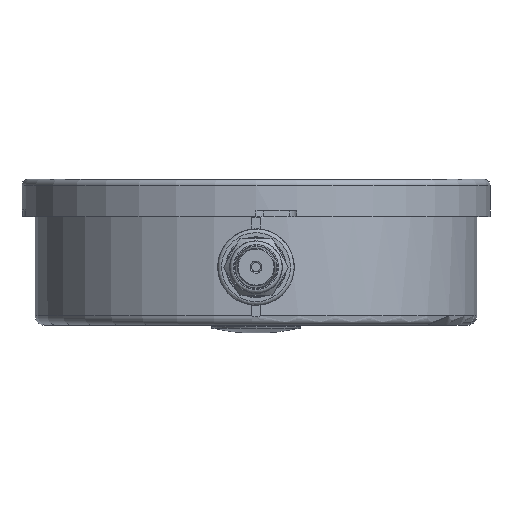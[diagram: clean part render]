
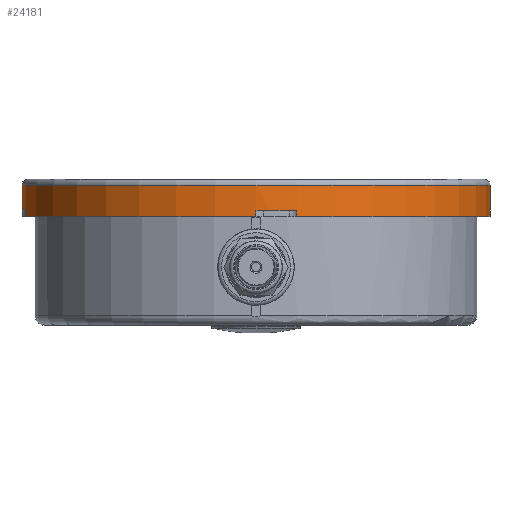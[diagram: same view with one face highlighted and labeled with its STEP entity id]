
A CAD part, front view. The second image highlights one B-rep face of the part: STEP entity #24181.
In plain terms, the highlighted cylindrical face has radius 79.375 mm (diameter 158.75 mm), a full revolution.
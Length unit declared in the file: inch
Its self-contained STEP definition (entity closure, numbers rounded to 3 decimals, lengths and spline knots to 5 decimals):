
#1772=LINE($,#34882,#4398);
#1774=LINE($,#34894,#4400);
#1776=LINE($,#34903,#4402);
#1778=LINE($,#34915,#4404);
#1780=LINE($,#34924,#4406);
#1782=LINE($,#34938,#4408);
#1784=LINE($,#34947,#4410);
#1786=LINE($,#34961,#4412);
#4398=VECTOR($,#27845,0.07954);
#4400=VECTOR($,#27859,0.07954);
#4402=VECTOR($,#27867,0.08981);
#4404=VECTOR($,#27881,0.08981);
#4406=VECTOR($,#27889,0.07954);
#4408=VECTOR($,#27907,0.07954);
#4410=VECTOR($,#27915,0.08981);
#4412=VECTOR($,#27933,0.08981);
#6372=FACE_BOUND($,#9297,.T.);
#6454=CYLINDRICAL_SURFACE($,#25637,3.125);
#7794=FACE_OUTER_BOUND($,#9296,.T.);
#9296=EDGE_LOOP($,(#17806,#17807,#17808,#17809,#17810,#17811,#17812,#17813,
#17814,#17815,#17816,#17817,#17818,#17819,#17820,#17821));
#9297=EDGE_LOOP($,(#17822));
#10628=CIRCLE($,#25619,3.125);
#10635=CIRCLE($,#25630,3.125);
#10638=CIRCLE($,#25636,3.125);
#10639=CIRCLE($,#25638,3.125);
#10640=CIRCLE($,#25639,3.125);
#10641=CIRCLE($,#25640,3.125);
#10642=CIRCLE($,#25641,3.125);
#10643=CIRCLE($,#25642,3.125);
#10644=CIRCLE($,#25643,3.125);
#11779=VERTEX_POINT($,#34876);
#11781=VERTEX_POINT($,#34880);
#11784=VERTEX_POINT($,#34890);
#11785=VERTEX_POINT($,#34892);
#11787=VERTEX_POINT($,#34897);
#11789=VERTEX_POINT($,#34901);
#11792=VERTEX_POINT($,#34911);
#11793=VERTEX_POINT($,#34913);
#11795=VERTEX_POINT($,#34918);
#11797=VERTEX_POINT($,#34922);
#11799=VERTEX_POINT($,#34928);
#11801=VERTEX_POINT($,#34936);
#11803=VERTEX_POINT($,#34941);
#11805=VERTEX_POINT($,#34945);
#11807=VERTEX_POINT($,#34951);
#11809=VERTEX_POINT($,#34959);
#11810=VERTEX_POINT($,#34970);
#14127=EDGE_CURVE($,#11779,#11781,#1772,.T.);
#14133=EDGE_CURVE($,#11784,#11785,#1774,.T.);
#14137=EDGE_CURVE($,#11787,#11789,#1776,.T.);
#14143=EDGE_CURVE($,#11792,#11793,#1778,.T.);
#14147=EDGE_CURVE($,#11795,#11797,#1780,.T.);
#14150=EDGE_CURVE($,#11797,#11799,#10628,.T.);
#14154=EDGE_CURVE($,#11799,#11801,#1782,.T.);
#14158=EDGE_CURVE($,#11803,#11805,#1784,.T.);
#14161=EDGE_CURVE($,#11805,#11807,#10635,.T.);
#14165=EDGE_CURVE($,#11807,#11809,#1786,.T.);
#14166=EDGE_CURVE($,#11793,#11787,#10638,.T.);
#14167=EDGE_CURVE($,#11784,#11789,#10639,.T.);
#14168=EDGE_CURVE($,#11785,#11779,#10640,.T.);
#14169=EDGE_CURVE($,#11803,#11781,#10641,.T.);
#14170=EDGE_CURVE($,#11795,#11809,#10642,.T.);
#14171=EDGE_CURVE($,#11792,#11801,#10643,.T.);
#14172=EDGE_CURVE($,#11810,#11810,#10644,.T.);
#17806=ORIENTED_EDGE($,*,*,#14143,.T.);
#17807=ORIENTED_EDGE($,*,*,#14166,.T.);
#17808=ORIENTED_EDGE($,*,*,#14137,.T.);
#17809=ORIENTED_EDGE($,*,*,#14167,.F.);
#17810=ORIENTED_EDGE($,*,*,#14133,.T.);
#17811=ORIENTED_EDGE($,*,*,#14168,.T.);
#17812=ORIENTED_EDGE($,*,*,#14127,.T.);
#17813=ORIENTED_EDGE($,*,*,#14169,.F.);
#17814=ORIENTED_EDGE($,*,*,#14158,.T.);
#17815=ORIENTED_EDGE($,*,*,#14161,.T.);
#17816=ORIENTED_EDGE($,*,*,#14165,.T.);
#17817=ORIENTED_EDGE($,*,*,#14170,.F.);
#17818=ORIENTED_EDGE($,*,*,#14147,.T.);
#17819=ORIENTED_EDGE($,*,*,#14150,.T.);
#17820=ORIENTED_EDGE($,*,*,#14154,.T.);
#17821=ORIENTED_EDGE($,*,*,#14171,.F.);
#17822=ORIENTED_EDGE($,*,*,#14172,.F.);
#24181=ADVANCED_FACE($,(#7794,#6372),#6454,.T.);
#25619=AXIS2_PLACEMENT_3D($,#34930,#27896,#27897);
#25630=AXIS2_PLACEMENT_3D($,#34953,#27922,#27923);
#25636=AXIS2_PLACEMENT_3D($,#34963,#27936,#27937);
#25637=AXIS2_PLACEMENT_3D($,#34964,#27938,#27939);
#25638=AXIS2_PLACEMENT_3D($,#34965,#27940,#27941);
#25639=AXIS2_PLACEMENT_3D($,#34966,#27942,#27943);
#25640=AXIS2_PLACEMENT_3D($,#34967,#27944,#27945);
#25641=AXIS2_PLACEMENT_3D($,#34968,#27946,#27947);
#25642=AXIS2_PLACEMENT_3D($,#34969,#27948,#27949);
#25643=AXIS2_PLACEMENT_3D($,#34971,#27950,#27951);
#27845=DIRECTION($,(0.,0.,-1.));
#27859=DIRECTION($,(0.,0.,1.));
#27867=DIRECTION($,(0.,0.,-1.));
#27881=DIRECTION($,(0.,0.,1.));
#27889=DIRECTION($,(0.,0.,1.));
#27896=DIRECTION('center_axis',(0.,0.,
1.));
#27897=DIRECTION('ref_axis',(-1.,0.,0.));
#27907=DIRECTION($,(0.,0.,-1.));
#27915=DIRECTION($,(0.,0.,1.));
#27922=DIRECTION('center_axis',(0.,0.,
1.));
#27923=DIRECTION('ref_axis',(-1.,0.,0.));
#27933=DIRECTION($,(0.,0.,-1.));
#27936=DIRECTION('center_axis',(0.,0.,
1.));
#27937=DIRECTION('ref_axis',(-1.,0.,0.));
#27938=DIRECTION('center_axis',(0.,0.,
1.));
#27939=DIRECTION('ref_axis',(-1.,0.,0.));
#27940=DIRECTION('center_axis',(0.,0.,
-1.));
#27941=DIRECTION('ref_axis',(-1.,0.,0.));
#27942=DIRECTION('center_axis',(0.,0.,
1.));
#27943=DIRECTION('ref_axis',(-1.,0.,0.));
#27944=DIRECTION('center_axis',(0.,0.,
-1.));
#27945=DIRECTION('ref_axis',(-1.,0.,0.));
#27946=DIRECTION('center_axis',(0.,0.,
-1.));
#27947=DIRECTION('ref_axis',(-1.,0.,0.));
#27948=DIRECTION('center_axis',(0.,0.,
-1.));
#27949=DIRECTION('ref_axis',(-1.,0.,0.));
#27950=DIRECTION('center_axis',(0.,0.,
1.));
#27951=DIRECTION('ref_axis',(-1.,0.,0.));
#34876=CARTESIAN_POINT('',(6.03861,7.75012,3.32193));
#34880=CARTESIAN_POINT('',(6.03861,7.75012,3.24239));
#34882=CARTESIAN_POINT($,(6.03861,7.75012,3.24239));
#34890=CARTESIAN_POINT('',(5.49596,7.70265,3.24239));
#34892=CARTESIAN_POINT('',(5.49596,7.70265,3.32193));
#34894=CARTESIAN_POINT($,(5.49596,7.70265,3.24239));
#34897=CARTESIAN_POINT('',(2.41844,10.285,3.3322));
#34901=CARTESIAN_POINT('',(2.41844,10.285,3.24239));
#34903=CARTESIAN_POINT($,(2.41844,10.285,3.24239));
#34911=CARTESIAN_POINT('',(2.37096,10.82765,3.24239));
#34913=CARTESIAN_POINT('',(2.37096,10.82765,3.3322));
#34915=CARTESIAN_POINT($,(2.37096,10.82765,3.24239));
#34918=CARTESIAN_POINT('',(5.49596,13.95265,3.24239));
#34922=CARTESIAN_POINT('',(5.49596,13.95265,3.32193));
#34924=CARTESIAN_POINT($,(5.49596,13.95265,3.24239));
#34928=CARTESIAN_POINT('',(4.95331,13.90517,3.32193));
#34930=CARTESIAN_POINT('Origin',(5.49596,10.82765,3.32193));
#34936=CARTESIAN_POINT('',(4.95331,13.90517,3.24239));
#34938=CARTESIAN_POINT($,(4.95331,13.90517,3.24239));
#34941=CARTESIAN_POINT('',(8.62096,10.82765,3.24239));
#34945=CARTESIAN_POINT('',(8.62096,10.82765,3.3322));
#34947=CARTESIAN_POINT($,(8.62096,10.82765,3.24239));
#34951=CARTESIAN_POINT('',(8.57349,11.3703,3.3322));
#34953=CARTESIAN_POINT('Origin',(5.49596,10.82765,3.3322));
#34959=CARTESIAN_POINT('',(8.57349,11.3703,3.24239));
#34961=CARTESIAN_POINT($,(8.57349,11.3703,3.24239));
#34963=CARTESIAN_POINT('Origin',(5.49596,10.82765,3.3322));
#34964=CARTESIAN_POINT('Origin',(5.49596,10.82765,3.24239));
#34965=CARTESIAN_POINT('Origin',(5.49596,10.82765,3.24239));
#34966=CARTESIAN_POINT('Origin',(5.49596,10.82765,3.32193));
#34967=CARTESIAN_POINT('Origin',(5.49596,10.82765,3.24239));
#34968=CARTESIAN_POINT('Origin',(5.49596,10.82765,3.24239));
#34969=CARTESIAN_POINT('Origin',(5.49596,10.82765,3.24239));
#34970=CARTESIAN_POINT('',(8.62096,10.82765,3.66239));
#34971=CARTESIAN_POINT('Origin',(5.49596,10.82765,3.66239));
